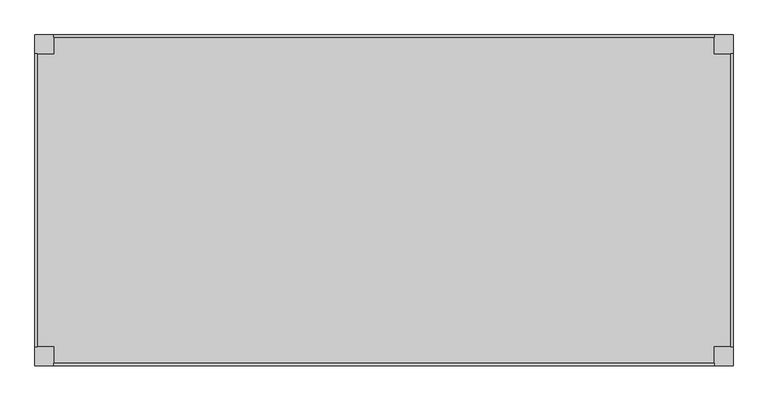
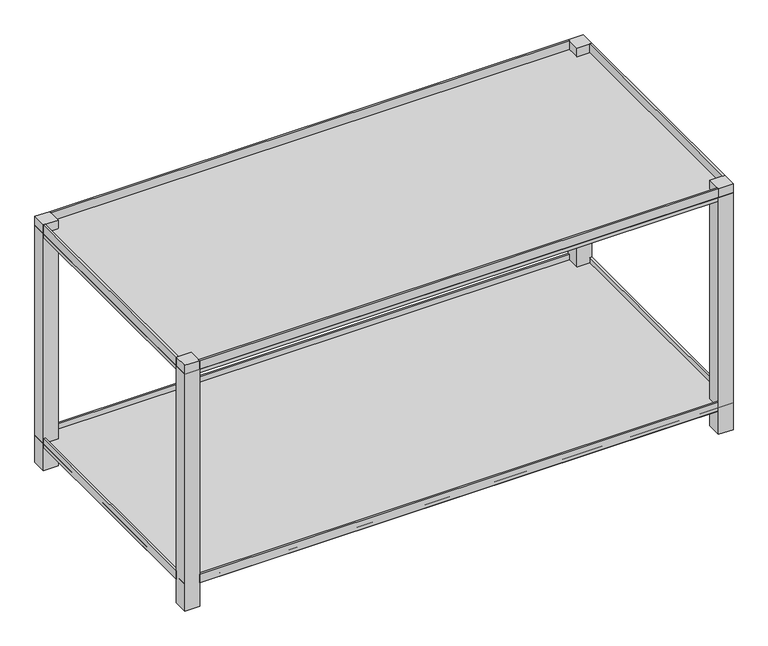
"""IFC4 building model written with IfcOpenShell, lengths in millimetres: furniture geometry, Paneleiro Glendo : Detention_Bunk."""

import ifcopenshell
import ifcopenshell.guid

model = None  # the IFC model being written
_history = None  # IfcOwnerHistory: only IFC2X3 demands one
_inside = {}  # id of a spatial element -> (the spatial element, [elements in it])
_under = {}  # id of a project, library or spatial element -> (it, [spatial elements below it])
_declared = {}  # id of a project -> (the project, [libraries it declares])
_typed = {}  # id of a type object -> (the type object, [elements of that type])
_made_of = {}  # id of a material, layer set ... -> (it, [elements and type objects made of it])


def new_model(schema):
    """Start an empty IFC model of exactly this schema.

    Asked for "IFC4X3", IfcOpenShell would pick the latest addendum, in which some entities
    have other attributes; the version numbers below select the first issue.
    IFC2X3 requires an IfcOwnerHistory on every rooted entity: one is made here for all.
    """
    global model, _history
    if schema == "IFC4X3":
        model = ifcopenshell.file(schema_version=(4, 3, 0, 0))
    else:
        model = ifcopenshell.file(schema=schema)
    _inside.clear()
    _under.clear()
    _declared.clear()
    _typed.clear()
    _made_of.clear()
    _history = None
    if model.schema == "IFC2X3":
        org = make("IfcOrganization", Name="unknown")
        user = make(
            "IfcPersonAndOrganization",
            ThePerson=make("IfcPerson", FamilyName="unknown"),
            TheOrganization=org,
        )
        app = make(
            "IfcApplication",
            ApplicationDeveloper=org,
            Version="unknown",
            ApplicationFullName="unknown",
            ApplicationIdentifier="unknown",
        )
        _history = make(
            "IfcOwnerHistory",
            OwningUser=user,
            OwningApplication=app,
            ChangeAction="ADDED",
            CreationDate=0,
        )
    return model


def make(cls, **values):
    """One entity of the class cls with the attributes given. An attribute that is None is left unset."""
    return model.create_entity(
        cls, **{name: value for name, value in values.items() if value is not None}
    )


def rooted(cls, **values):
    """An entity with a GlobalId (a new one), such as an element, a storey or a relation."""
    return make(cls, GlobalId=ifcopenshell.guid.new(), OwnerHistory=_history, **values)


def si_unit(unit_type, name, prefix=None):
    """IfcSIUnit, for example si_unit("LENGTHUNIT", "METRE", prefix="MILLI")."""
    return make("IfcSIUnit", UnitType=unit_type, Prefix=prefix, Name=name)


def assignment(units):
    """IfcUnitAssignment: the units of a project."""
    return None if units is None else make("IfcUnitAssignment", Units=units)


def point(xyz):
    """IfcCartesianPoint."""
    return None if xyz is None else make("IfcCartesianPoint", Coordinates=xyz)


def direction(xyz):
    """IfcDirection."""
    return None if xyz is None else make("IfcDirection", DirectionRatios=xyz)


def frame(location, z_axis=None, x_axis=None):
    """IfcAxis2Placement3D, a coordinate frame: its origin and axes. An axis left out is left unset."""
    return make(
        "IfcAxis2Placement3D",
        Location=point(location),
        Axis=direction(z_axis),
        RefDirection=direction(x_axis),
    )


def origin():
    """The frame at (0, 0, 0) with its axes left unset."""
    return frame((0.0, 0.0, 0.0))


def origin_with_axes():
    """The frame at (0, 0, 0) with the z axis (0, 0, 1) and the x axis (1, 0, 0) written out."""
    return frame((0.0, 0.0, 0.0), z_axis=(0.0, 0.0, 1.0), x_axis=(1.0, 0.0, 0.0))


def place(relative_to, where):
    """IfcLocalPlacement: puts the frame where relative to a parent placement (None: the world)."""
    return make(
        "IfcLocalPlacement", PlacementRelTo=relative_to, RelativePlacement=where
    )


def context(
    kind, dimensions, precision=None, world=None, true_north=None, identifier=None
):
    """IfcGeometricRepresentationContext, for example the 3D "Model" context."""
    return make(
        "IfcGeometricRepresentationContext",
        ContextIdentifier=identifier,
        ContextType=kind,
        CoordinateSpaceDimension=dimensions,
        Precision=precision,
        WorldCoordinateSystem=world,
        TrueNorth=true_north,
    )


def project(units=None, contexts=None):
    """IfcProject with its units and contexts."""
    return rooted(
        "IfcProject",
        Name="project",
        RepresentationContexts=contexts,
        UnitsInContext=assignment(units),
    )


def spatial(cls, under=None, at=None, **own):
    """A site, building, storey or space (cls), placed at a placement, below another one or the project."""
    s = rooted(cls, ObjectPlacement=at, **own)
    if under is not None:
        _under.setdefault(under.id(), (under, []))[1].append(s)
    return s


def polyline(points):
    """IfcPolyline through the points."""
    return make("IfcPolyline", Points=[point(p) for p in points])


def outline(outer, holes=None, kind="AREA"):
    """IfcArbitraryClosedProfileDef: a profile drawn as a closed curve; with holes, ...WithVoids."""
    if holes is None:
        return make("IfcArbitraryClosedProfileDef", ProfileType=kind, OuterCurve=outer)
    return make(
        "IfcArbitraryProfileDefWithVoids",
        ProfileType=kind,
        OuterCurve=outer,
        InnerCurves=holes,
    )


def extrude(swept, where, along, depth):
    """IfcExtrudedAreaSolid: the profile swept, set in the frame where, extruded along a direction by depth."""
    return make(
        "IfcExtrudedAreaSolid",
        SweptArea=swept,
        Position=where,
        ExtrudedDirection=direction(along),
        Depth=depth,
    )


def shape(context_of_items, identifier, shape_type, items):
    """IfcShapeRepresentation: the items that make up one representation, for example the "Body"."""
    return make(
        "IfcShapeRepresentation",
        ContextOfItems=context_of_items,
        RepresentationIdentifier=identifier,
        RepresentationType=shape_type,
        Items=items,
    )


def source(mapping_origin, context_of_items, identifier, shape_type, items):
    """IfcRepresentationMap: a shape defined once, which mapped items show again and again."""
    return make(
        "IfcRepresentationMap",
        MappingOrigin=mapping_origin,
        MappedRepresentation=shape(context_of_items, identifier, shape_type, items),
    )


def transform(
    local_origin,
    x_axis=None,
    y_axis=None,
    z_axis=None,
    scale=None,
    scale2=None,
    scale3=None,
    uniform=True,
):
    """IfcCartesianTransformationOperator3D, or its non-uniform kind. x_axis, y_axis, z_axis: its Axis1, 2, 3."""
    if uniform:
        return make(
            "IfcCartesianTransformationOperator3D",
            Axis1=direction(x_axis),
            Axis2=direction(y_axis),
            LocalOrigin=point(local_origin),
            Scale=scale,
            Axis3=direction(z_axis),
        )
    return make(
        "IfcCartesianTransformationOperator3DnonUniform",
        Axis1=direction(x_axis),
        Axis2=direction(y_axis),
        LocalOrigin=point(local_origin),
        Scale=scale,
        Axis3=direction(z_axis),
        Scale2=scale2,
        Scale3=scale3,
    )


def mapped(mapping_source, mapping_target):
    """IfcMappedItem: shows the shape of a source again, moved by a transform."""
    return make(
        "IfcMappedItem", MappingSource=mapping_source, MappingTarget=mapping_target
    )


def made_of(thing, what):
    """Note that an element or type object is made of a material, layer set ...; save() writes the relation."""
    if what is not None:
        _made_of.setdefault(what.id(), (what, []))[1].append(thing)
    return thing


def element(
    cls,
    number,
    at=None,
    inside=None,
    cuts=None,
    type_object=None,
    material=None,
    context=None,
    identifier="Body",
    shape_type=None,
    held_by="IfcProductDefinitionShape",
    body=None,
    shapes=None,
    **own,
):
    """One element of the class cls, such as IfcWall. Its Tag is "e" and its number.

    at: its placement. inside: the storey or other place that contains it. cuts: it is an
    opening in that element (IfcRelVoidsElement). A single representation is given by context,
    identifier, shape_type and body (its items); several are given by shapes. held_by: the class
    of the entity that holds the representations. save() writes the other relations.
    """
    e = rooted(cls, Tag="e%d" % number, ObjectPlacement=at, **own)
    if body is not None:
        shapes = [shape(context, identifier, shape_type, body)]
    if shapes is not None:
        e.Representation = make(held_by, Representations=shapes)
    if inside is not None:
        _inside.setdefault(inside.id(), (inside, []))[1].append(e)
    if cuts is not None:
        rooted(
            "IfcRelVoidsElement", RelatingBuildingElement=cuts, RelatedOpeningElement=e
        )
    if type_object is not None:
        _typed.setdefault(type_object.id(), (type_object, []))[1].append(e)
    return made_of(e, material)


def aggregate(whole, parts):
    """IfcRelAggregates: a whole, such as a stair, and the parts it consists of."""
    return rooted("IfcRelAggregates", RelatingObject=whole, RelatedObjects=parts)


def save(model, path):
    """Write the relations noted so far, then the file.

    IfcRelAggregates (storeys below a building ...), IfcRelContainedInSpatialStructure (elements
    in a storey), IfcRelDefinesByType, IfcRelAssociatesMaterial and IfcRelDeclares: one each for
    every whole, place, type object, material and project.
    """
    for whole, parts in _under.values():
        aggregate(whole, parts)
    for where, things in _inside.values():
        rooted(
            "IfcRelContainedInSpatialStructure",
            RelatedElements=things,
            RelatingStructure=where,
        )
    for kind, things in _typed.values():
        rooted("IfcRelDefinesByType", RelatedObjects=things, RelatingType=kind)
    for what, things in _made_of.values():
        rooted("IfcRelAssociatesMaterial", RelatedObjects=things, RelatingMaterial=what)
    for by, libraries in _declared.values():
        rooted("IfcRelDeclares", RelatingContext=by, RelatedDefinitions=libraries)
    model.write(path)


def furniture_799c2cac(model_context):
    return source(origin(), model_context, "Body", "SweptSolid", [
        extrude(outline(polyline([(943.65, -399.2), (943.65, 399.2), (950.0, 399.2), (950.0, -399.2), (943.65, -399.2)])), frame((0.0, 0.0, 868.2260014), z_axis=(0.0, 0.0, 1.0), x_axis=(1.0, 0.0, 0.0)), (0.0, 0.0, 1.0), 31.7739986),
        extrude(outline(polyline([(-899.2, 450.0), (899.2, 450.0), (899.2, 443.65), (-899.2, 443.65), (-899.2, 450.0)])), frame((0.0, 0.0, 868.2260014), z_axis=(0.0, 0.0, 1.0), x_axis=(1.0, 0.0, 0.0)), (0.0, 0.0, 1.0), 31.7739986),
        extrude(outline(polyline([(-943.65, 399.2), (-943.65, -399.2), (-950.0, -399.2), (-950.0, 399.2), (-943.65, 399.2)])), frame((0.0, 0.0, 868.2260014), z_axis=(0.0, 0.0, 1.0), x_axis=(1.0, 0.0, 0.0)), (0.0, 0.0, 1.0), 31.7739986),
        extrude(outline(polyline([(899.2, -450.0), (-899.2, -450.0), (-899.2, -443.65), (899.2, -443.65), (899.2, -450.0)])), frame((0.0, 0.0, 868.2260014), z_axis=(0.0, 0.0, 1.0), x_axis=(1.0, 0.0, 0.0)), (0.0, 0.0, 1.0), 31.7739986),
        extrude(outline(polyline([(-899.2, -399.2), (-899.2, -450.0), (-950.0, -450.0), (-950.0, -399.2), (-899.2, -399.2)])), origin_with_axes(), (0.0, 0.0, 1.0), 900.0),
        extrude(outline(polyline([(-899.2, 450.0), (-899.2, 399.2), (-950.0, 399.2), (-950.0, 450.0), (-899.2, 450.0)])), origin_with_axes(), (0.0, 0.0, 1.0), 900.0),
        extrude(outline(polyline([(899.2, 450.0), (950.0, 450.0), (950.0, 399.2), (899.2, 399.2), (899.2, 450.0)])), origin_with_axes(), (0.0, 0.0, 1.0), 900.0),
        extrude(outline(polyline([(899.2, -399.2), (950.0, -399.2), (950.0, -450.0), (899.2, -450.0), (899.2, -399.2)])), origin_with_axes(), (0.0, 0.0, 1.0), 900.0),
        extrude(outline(polyline([(950.0, 450.0), (950.0, -450.0), (-950.0, -450.0), (-950.0, 450.0), (950.0, 450.0)])), frame((0.0, 0.0, 855.5260014), z_axis=(0.0, 0.0, 1.0), x_axis=(1.0, 0.0, 0.0)), (0.0, 0.0, 1.0), 12.7),
        extrude(outline(polyline([(-943.65, 399.2), (-943.65, -399.2), (-950.0, -399.2), (-950.0, 399.2), (-943.65, 399.2)])), frame((0.0, 0.0, 85.6), z_axis=(0.0, 0.0, 1.0), x_axis=(1.0, 0.0, 0.0)), (0.0, 0.0, 1.0), 31.7739986),
        extrude(outline(polyline([(943.65, -399.2), (943.65, 399.2), (950.0, 399.2), (950.0, -399.2), (943.65, -399.2)])), frame((0.0, 0.0, 85.6), z_axis=(0.0, 0.0, 1.0), x_axis=(1.0, 0.0, 0.0)), (0.0, 0.0, 1.0), 31.7739986),
        extrude(outline(polyline([(-899.2, 450.0), (899.2, 450.0), (899.2, 443.65), (-899.2, 443.65), (-899.2, 450.0)])), frame((0.0, 0.0, 85.6), z_axis=(0.0, 0.0, 1.0), x_axis=(1.0, 0.0, 0.0)), (0.0, 0.0, 1.0), 31.7739986),
        extrude(outline(polyline([(899.2, -450.0), (-899.2, -450.0), (-899.2, -443.65), (899.2, -443.65), (899.2, -450.0)])), frame((0.0, 0.0, 85.6), z_axis=(0.0, 0.0, 1.0), x_axis=(1.0, 0.0, 0.0)), (0.0, 0.0, 1.0), 31.7739986),
        extrude(outline(polyline([(950.0, 450.0), (950.0, -450.0), (-950.0, -450.0), (-950.0, 450.0), (950.0, 450.0)])), frame((0.0, 0.0, 85.6), z_axis=(0.0, 0.0, 1.0), x_axis=(1.0, 0.0, 0.0)), (0.0, 0.0, 1.0), 12.7),
    ])


if __name__ == "__main__":
    model = new_model("IFC4")
    model_context = context("Model", 3, world=origin())
    ifc_project = project(units=[si_unit("LENGTHUNIT", "METRE", prefix="MILLI")], contexts=[model_context])
    site = spatial("IfcSite", under=ifc_project)
    building = spatial("IfcBuilding", under=site)
    placement = place(None, origin())
    furniture_shape = furniture_799c2cac(model_context)
    element("IfcFurniture", 1, ObjectType="Paneleiro Glendo : Detention_Bunk", at=placement, inside=building, context=model_context, shape_type="MappedRepresentation", body=[
        mapped(furniture_shape, transform((0.0, 0.0, 0.0), x_axis=(1.0, 0.0, 0.0), y_axis=(0.0, 1.0, 0.0), z_axis=(0.0, 0.0, 1.0))),
    ])
    save(model, "model.ifc")
